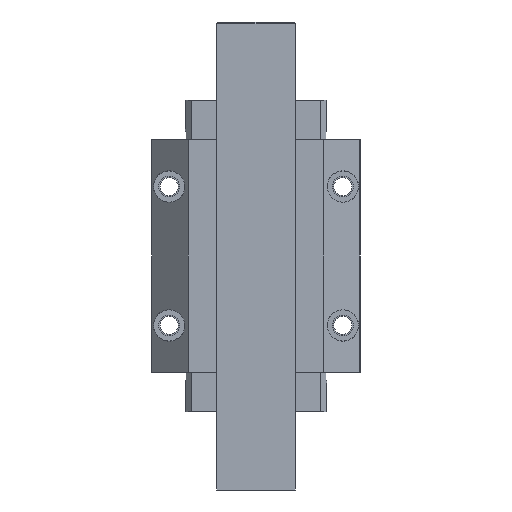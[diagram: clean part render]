
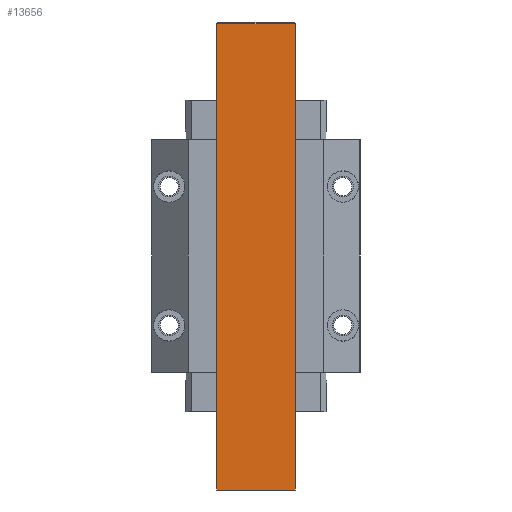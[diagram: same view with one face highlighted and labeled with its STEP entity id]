
A CAD part, front view. The second image highlights one B-rep face of the part: STEP entity #13656.
In plain terms, the highlighted planar face has unit normal (0, -1, 0).
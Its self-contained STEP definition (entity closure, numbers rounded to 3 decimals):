
#12993=DIRECTION('',(1.,0.,0.));
#12994=VECTOR('',#12993,45.);
#12995=CARTESIAN_POINT('',(-22.5,-23.5,-134.75));
#12996=LINE('',#12995,#12994);
#13117=DIRECTION('',(0.,0.,1.));
#13118=VECTOR('',#13117,268.634);
#13119=CARTESIAN_POINT('',(22.5,-23.5,-134.75));
#13120=LINE('',#13119,#13118);
#13121=DIRECTION('',(1.,0.,0.));
#13122=VECTOR('',#13121,45.);
#13123=CARTESIAN_POINT('',(-22.5,-23.5,133.884));
#13124=LINE('',#13123,#13122);
#13125=DIRECTION('',(0.,0.,1.));
#13126=VECTOR('',#13125,268.634);
#13127=CARTESIAN_POINT('',(-22.5,-23.5,-134.75));
#13128=LINE('',#13127,#13126);
#13309=CARTESIAN_POINT('',(22.5,-23.5,133.884));
#13311=VERTEX_POINT('',#13309);
#13313=CARTESIAN_POINT('',(-22.5,-23.5,133.884));
#13315=VERTEX_POINT('',#13313);
#13357=CARTESIAN_POINT('',(-22.5,-23.5,-134.75));
#13358=VERTEX_POINT('',#13357);
#13359=CARTESIAN_POINT('',(22.5,-23.5,-134.75));
#13360=VERTEX_POINT('',#13359);
#13643=CARTESIAN_POINT('',(-22.5,-23.5,-134.75));
#13644=DIRECTION('',(0.,-1.,0.));
#13645=DIRECTION('',(1.,0.,0.));
#13646=AXIS2_PLACEMENT_3D('',#13643,#13644,#13645);
#13647=PLANE('',#13646);
#13649=ORIENTED_EDGE('',*,*,#13648,.T.);
#13650=ORIENTED_EDGE('',*,*,#13638,.F.);
#13651=ORIENTED_EDGE('',*,*,#13398,.F.);
#13653=ORIENTED_EDGE('',*,*,#13652,.T.);
#13654=EDGE_LOOP('',(#13649,#13650,#13651,#13653));
#13655=FACE_OUTER_BOUND('',#13654,.F.);
#13398=EDGE_CURVE('',#13358,#13360,#12996,.T.);
#13638=EDGE_CURVE('',#13360,#13311,#13120,.T.);
#13648=EDGE_CURVE('',#13315,#13311,#13124,.T.);
#13652=EDGE_CURVE('',#13358,#13315,#13128,.T.);
#13656=ADVANCED_FACE('',(#13655),#13647,.T.);
